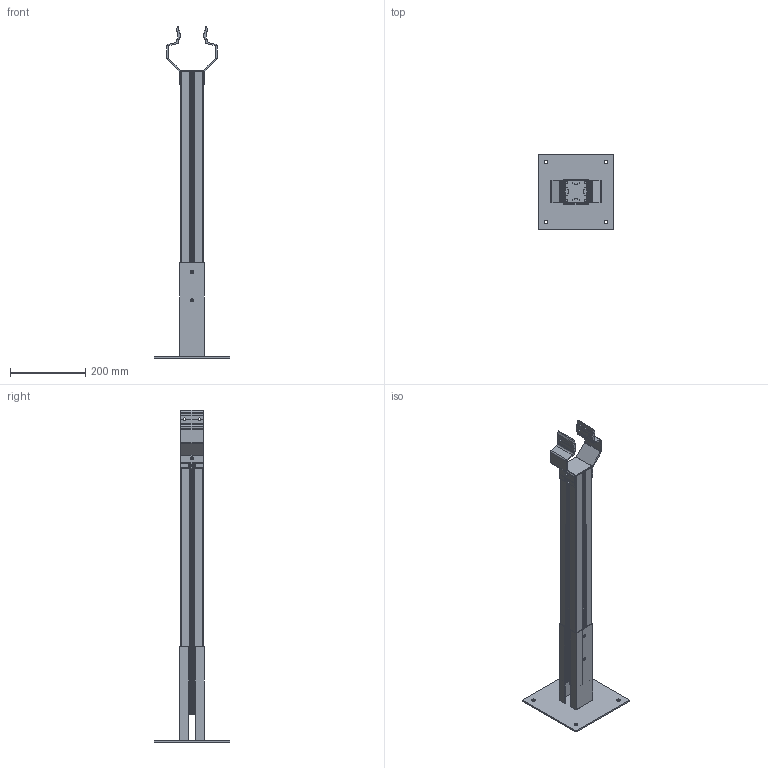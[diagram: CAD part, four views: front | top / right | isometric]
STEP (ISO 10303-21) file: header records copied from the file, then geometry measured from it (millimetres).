
FILE_DESCRIPTION((''),'2;1');
FILE_NAME('C:\Vault Klient\Projekt\Koncept konstruktion\Benstöd\100-1350.stp','2009-11-19T13:34:21',('Mathias'),(''),'Autodesk Inventor 2010','Autodesk Inventor 2010','');
FILE_SCHEMA(('AUTOMOTIVE_DESIGN { 1 0 10303 214 1 1 1 1 }'));
Length unit declared in the file: millimetre
Products named in the file (5): 100-1350; 100-1015-01; 100-1225; 100-1140; 100-2040
Assembly tree (5 placements, depth 2):
  100-1350
    100-1015-01
    100-1225  x2
    100-1140
    100-2040
Bounding box: 200 x 200 x 885 mm (x, y, z)
Volume: 2384262.5 mm3; surface area: 520693.5 mm2
Topology: 5 solids, 5 shells, 278 faces, 790 edges, 520 vertices
Faces by surface type: plane 172, cylinder 84, bspline 14, torus 4, sphere 4
Full cylindrical faces by diameter (mm): 5.5 x4
Entity records: 7295 total; most frequent: CARTESIAN_POINT 1408, DIRECTION 1206, ORIENTED_EDGE 1180, EDGE_CURVE 590, VECTOR 414, LINE 414, VERTEX_POINT 400, AXIS2_PLACEMENT_3D 396
